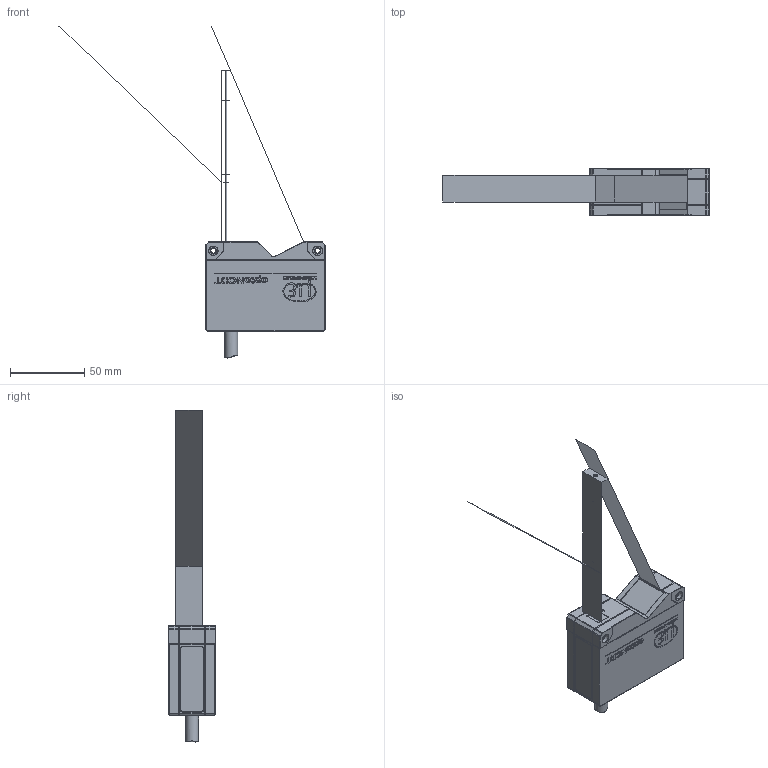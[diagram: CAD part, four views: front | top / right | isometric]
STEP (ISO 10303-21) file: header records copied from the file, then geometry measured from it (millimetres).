
FILE_DESCRIPTION (( 'STEP AP214' ), '1' );
FILE_NAME ('ILD5500_MB50.step', '2025-07-31T11:03:11', ( '' ), ( '' ), 'SwSTEP 2.0', 'SolidWorks 2022', '' );
FILE_SCHEMA (( 'AUTOMOTIVE_DESIGN' ));
Length unit declared in the file: millimetre
Products named in the file (1): ILD5500_MB50
Bounding box: 178.7 x 32 x 222.97 mm (x, y, z)
Surface area: 28927.6 mm2 (no closed solid volume)
Topology: 0 solids, 11 shells, 1906 faces, 5033 edges, 3288 vertices
Faces by surface type: plane 959, bspline 737, cylinder 129, cone 66, torus 15
Full cylindrical faces by diameter (mm): 0.7 x1, 0.8 x1, 2.4 x2, 3.3 x2, 6 x2, 8.8 x1, 10 x2, 10.5 x2, 11 x1
Entity records: 95078 total; most frequent: CARTESIAN_POINT 32402, ORIENTED_EDGE 9924, DIRECTION 6097, EDGE_CURVE 4972, VERTEX_POINT 3269, LINE 3159, VECTOR 3159, EDGE_LOOP 2098
